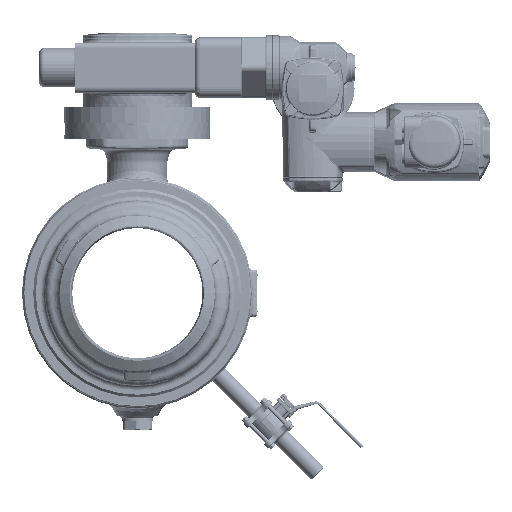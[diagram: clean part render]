
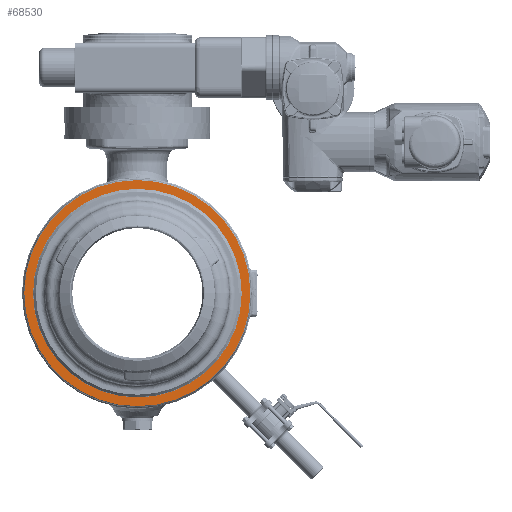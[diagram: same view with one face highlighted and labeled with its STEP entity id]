
A CAD part, left-side view. The second image highlights one B-rep face of the part: STEP entity #68530.
In plain terms, the highlighted planar face has unit normal (-1, 0, 0).
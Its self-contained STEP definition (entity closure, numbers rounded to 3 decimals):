
#17481=CARTESIAN_POINT('',(-130.5,0.,0.));
#17482=DIRECTION('',(1.,0.,0.));
#17483=DIRECTION('',(0.,0.,-1.));
#17484=AXIS2_PLACEMENT_3D('',#17481,#17482,#17483);
#17486=CARTESIAN_POINT('',(-130.5,0.,0.));
#17487=DIRECTION('',(1.,0.,0.));
#17488=DIRECTION('',(0.,0.,1.));
#17489=AXIS2_PLACEMENT_3D('',#17486,#17487,#17488);
#17491=CARTESIAN_POINT('',(-130.5,0.,0.));
#17492=DIRECTION('',(-1.,0.,0.));
#17493=DIRECTION('',(0.,0.,1.));
#17494=AXIS2_PLACEMENT_3D('',#17491,#17492,#17493);
#17496=CARTESIAN_POINT('',(-130.5,0.,0.));
#17497=DIRECTION('',(-1.,0.,0.));
#17498=DIRECTION('',(0.,0.,-1.));
#17499=AXIS2_PLACEMENT_3D('',#17496,#17497,#17498);
#36357=CARTESIAN_POINT('',(-130.5,0.,-217.));
#36358=CARTESIAN_POINT('',(-130.5,0.,217.));
#36359=VERTEX_POINT('',#36357);
#36360=VERTEX_POINT('',#36358);
#36361=CARTESIAN_POINT('',(-130.5,0.,200.331));
#36362=CARTESIAN_POINT('',(-130.5,0.,-200.331));
#36363=VERTEX_POINT('',#36361);
#36364=VERTEX_POINT('',#36362);
#68514=CARTESIAN_POINT('',(-130.5,0.,0.));
#68515=DIRECTION('',(-1.,0.,0.));
#68516=DIRECTION('',(0.,0.,1.));
#68517=AXIS2_PLACEMENT_3D('',#68514,#68515,#68516);
#68518=PLANE('',#68517);
#68520=ORIENTED_EDGE('',*,*,#68519,.T.);
#68522=ORIENTED_EDGE('',*,*,#68521,.T.);
#68523=EDGE_LOOP('',(#68520,#68522));
#68524=FACE_OUTER_BOUND('',#68523,.F.);
#68525=ORIENTED_EDGE('',*,*,#68504,.T.);
#68527=ORIENTED_EDGE('',*,*,#68526,.T.);
#68528=EDGE_LOOP('',(#68525,#68527));
#68529=FACE_BOUND('',#68528,.F.);
#68530=ADVANCED_FACE('',(#68524,#68529),#68518,.T.);
#17485=CIRCLE('',#17484,217.);
#17490=CIRCLE('',#17489,217.);
#17495=CIRCLE('',#17494,200.331);
#17500=CIRCLE('',#17499,200.331);
#68504=EDGE_CURVE('',#36363,#36364,#17495,.T.);
#68519=EDGE_CURVE('',#36359,#36360,#17485,.T.);
#68521=EDGE_CURVE('',#36360,#36359,#17490,.T.);
#68526=EDGE_CURVE('',#36364,#36363,#17500,.T.);
